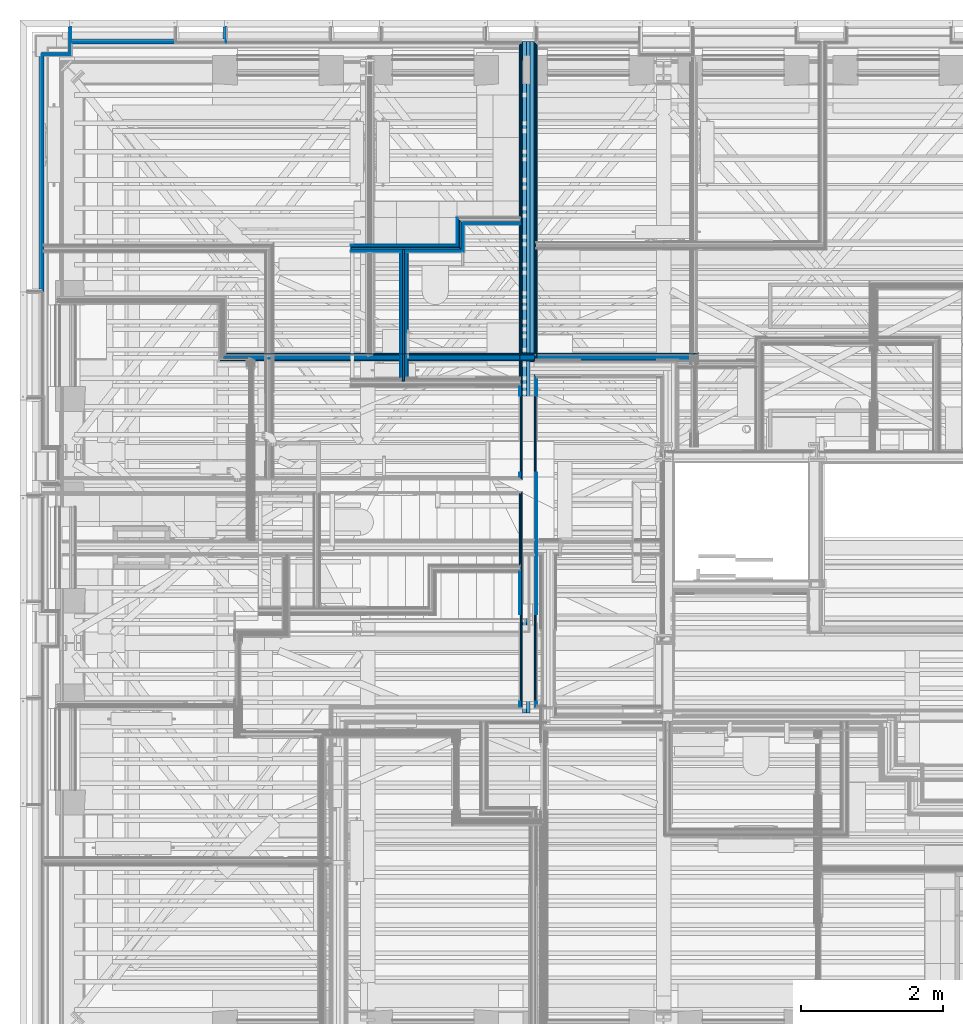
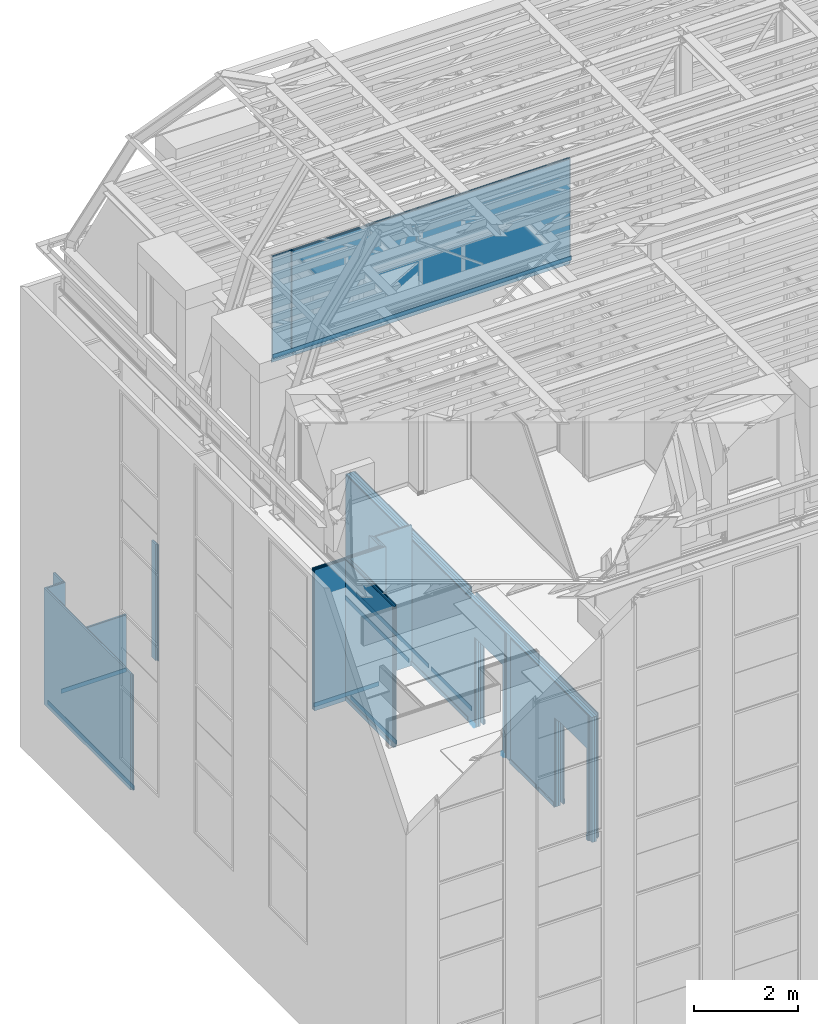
# One storey, part 39 of 183: 62 building element parts, 3 openings, 11 elements without a shape of their own.
"""IFC2X3 building model written with IfcOpenShell, lengths in metres."""

from ifc_helpers import new_model, entity, si_unit, converted_unit, derived_unit, money_unit, direction, frame, frame_2d, origin_with_axes, place, context, subcontext, project, spatial, polyline, rectangle, outline, extrude, material, type_object, element, aggregate, save


model = new_model("IFC2X3")

# Units and contexts
model_context = context("Model", 3, precision=1e-05, world=origin_with_axes(), true_north=direction((0.0, 1.0)))
body_context = subcontext(model_context, "Body", "Model", "MODEL_VIEW", scale=1.0)
ifc_project = project(units=[si_unit("LENGTHUNIT", "METRE"), si_unit("AREAUNIT", "SQUARE_METRE"), si_unit("VOLUMEUNIT", "CUBIC_METRE"), si_unit("ABSORBEDDOSEUNIT", "GRAY"), si_unit("AMOUNTOFSUBSTANCEUNIT", "MOLE"), si_unit("DOSEEQUIVALENTUNIT", "SIEVERT"), si_unit("ELECTRICCAPACITANCEUNIT", "FARAD"), si_unit("ELECTRICCHARGEUNIT", "COULOMB"), si_unit("ELECTRICCONDUCTANCEUNIT", "SIEMENS"), si_unit("ELECTRICCURRENTUNIT", "AMPERE"), si_unit("ELECTRICRESISTANCEUNIT", "OHM"), si_unit("ELECTRICVOLTAGEUNIT", "VOLT"), si_unit("ENERGYUNIT", "JOULE"), si_unit("FORCEUNIT", "NEWTON"), si_unit("FREQUENCYUNIT", "HERTZ"), si_unit("ILLUMINANCEUNIT", "LUX"), si_unit("INDUCTANCEUNIT", "HENRY"), si_unit("LUMINOUSFLUXUNIT", "LUMEN"), si_unit("LUMINOUSINTENSITYUNIT", "CANDELA"), si_unit("MAGNETICFLUXDENSITYUNIT", "TESLA"), si_unit("MAGNETICFLUXUNIT", "WEBER"), si_unit("MASSUNIT", "GRAM"), converted_unit("PLANEANGLEUNIT", "degree", entity("IfcReal", 0.0174532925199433), si_unit("PLANEANGLEUNIT", "RADIAN"), dimensions=[0, 0, 0, 0, 0, 0, 0]), si_unit("POWERUNIT", "WATT"), si_unit("PRESSUREUNIT", "PASCAL"), si_unit("RADIOACTIVITYUNIT", "BECQUEREL"), si_unit("SOLIDANGLEUNIT", "STERADIAN"), si_unit("THERMODYNAMICTEMPERATUREUNIT", "KELVIN"), si_unit("TIMEUNIT", "SECOND"), derived_unit("ACCELERATIONUNIT", [(si_unit("LENGTHUNIT", "METRE"), 1), (si_unit("TIMEUNIT", "SECOND"), -2)]), derived_unit("ANGULARVELOCITYUNIT", [(converted_unit("PLANEANGLEUNIT", "degree", entity("IfcReal", 0.0174532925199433), si_unit("PLANEANGLEUNIT", "RADIAN"), dimensions=[0, 0, 0, 0, 0, 0, 0]), 1), (si_unit("TIMEUNIT", "SECOND"), -1)]), derived_unit("CURVATUREUNIT", [(converted_unit("PLANEANGLEUNIT", "degree", entity("IfcReal", 0.0174532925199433), si_unit("PLANEANGLEUNIT", "RADIAN"), dimensions=[0, 0, 0, 0, 0, 0, 0]), 1), (si_unit("LENGTHUNIT", "METRE"), -1)]), derived_unit("DYNAMICVISCOSITYUNIT", [(si_unit("PRESSUREUNIT", "PASCAL"), 1), (si_unit("TIMEUNIT", "SECOND"), 1)]), derived_unit("HEATFLUXDENSITYUNIT", [(si_unit("POWERUNIT", "WATT"), 1), (si_unit("LENGTHUNIT", "METRE"), -2)]), derived_unit("HEATINGVALUEUNIT", [(si_unit("ENERGYUNIT", "JOULE"), 1), (si_unit("MASSUNIT", "GRAM"), -1)]), derived_unit("INTEGERCOUNTRATEUNIT", [(si_unit("TIMEUNIT", "SECOND"), -1)]), derived_unit("IONCONCENTRATIONUNIT", [(si_unit("MASSUNIT", "GRAM"), 1), (si_unit("VOLUMEUNIT", "CUBIC_METRE"), -1)]), derived_unit("ISOTHERMALMOISTURECAPACITYUNIT", [(si_unit("VOLUMEUNIT", "CUBIC_METRE"), 1), (si_unit("MASSUNIT", "GRAM"), -1)]), derived_unit("KINEMATICVISCOSITYUNIT", [(si_unit("AREAUNIT", "SQUARE_METRE"), 1), (si_unit("TIMEUNIT", "SECOND"), -1)]), derived_unit("LINEARFORCEUNIT", [(si_unit("FORCEUNIT", "NEWTON"), 1), (si_unit("LENGTHUNIT", "METRE"), -1)]), derived_unit("LINEARMOMENTUNIT", [(si_unit("FORCEUNIT", "NEWTON"), 1), (si_unit("LENGTHUNIT", "METRE"), -1)]), derived_unit("LINEARSTIFFNESSUNIT", [(si_unit("FORCEUNIT", "NEWTON"), 1), (si_unit("LENGTHUNIT", "METRE"), -1)]), derived_unit("LINEARVELOCITYUNIT", [(si_unit("LENGTHUNIT", "METRE"), 1), (si_unit("TIMEUNIT", "SECOND"), -1)]), derived_unit("LUMINOUSINTENSITYDISTRIBUTIONUNIT", [(si_unit("LUMINOUSINTENSITYUNIT", "CANDELA"), 1), (si_unit("LUMINOUSFLUXUNIT", "LUMEN"), -1)]), derived_unit("MASSDENSITYUNIT", [(si_unit("MASSUNIT", "GRAM"), 1), (si_unit("VOLUMEUNIT", "CUBIC_METRE"), -1)]), derived_unit("MASSFLOWRATEUNIT", [(si_unit("MASSUNIT", "GRAM"), 1), (si_unit("TIMEUNIT", "SECOND"), -1)]), derived_unit("MASSPERLENGTHUNIT", [(si_unit("MASSUNIT", "GRAM"), 1), (si_unit("LENGTHUNIT", "METRE"), -1)]), derived_unit("MODULUSOFELASTICITYUNIT", [(si_unit("FORCEUNIT", "NEWTON"), 1), (si_unit("AREAUNIT", "SQUARE_METRE"), -1)]), derived_unit("MODULUSOFLINEARSUBGRADEREACTIONUNIT", [(si_unit("FORCEUNIT", "NEWTON"), 1), (si_unit("LENGTHUNIT", "METRE"), -2)]), derived_unit("MODULUSOFROTATIONALSUBGRADEREACTIONUNIT", [(si_unit("FORCEUNIT", "NEWTON"), 1), (si_unit("LENGTHUNIT", "METRE"), 1)]), derived_unit("MODULUSOFSUBGRADEREACTIONUNIT", [(si_unit("FORCEUNIT", "NEWTON"), 1), (si_unit("VOLUMEUNIT", "CUBIC_METRE"), -1)]), derived_unit("MOISTUREDIFFUSIVITYUNIT", [(si_unit("VOLUMEUNIT", "CUBIC_METRE"), 1), (si_unit("TIMEUNIT", "SECOND"), -1)]), derived_unit("MOLECULARWEIGHTUNIT", [(si_unit("MASSUNIT", "GRAM"), 1), (si_unit("AMOUNTOFSUBSTANCEUNIT", "MOLE"), -1)]), derived_unit("PLANARFORCEUNIT", [(si_unit("FORCEUNIT", "NEWTON"), 1), (si_unit("LENGTHUNIT", "METRE"), -2)]), derived_unit("ROTATIONALFREQUENCYUNIT", [(si_unit("TIMEUNIT", "SECOND"), -1)]), derived_unit("ROTATIONALMASSUNIT", [(si_unit("MASSUNIT", "GRAM"), 1), (si_unit("LENGTHUNIT", "METRE"), 2)]), derived_unit("ROTATIONALSTIFFNESSUNIT", [(si_unit("FORCEUNIT", "NEWTON"), 1), (si_unit("LENGTHUNIT", "METRE"), 1), (converted_unit("PLANEANGLEUNIT", "degree", entity("IfcReal", 0.0174532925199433), si_unit("PLANEANGLEUNIT", "RADIAN"), dimensions=[0, 0, 0, 0, 0, 0, 0]), -1)]), derived_unit("SECTIONAREAINTEGRALUNIT", [(si_unit("LENGTHUNIT", "METRE"), 5)]), derived_unit("SECTIONMODULUSUNIT", [(si_unit("LENGTHUNIT", "METRE"), 3)]), derived_unit("SHEARMODULUSUNIT", [(si_unit("FORCEUNIT", "NEWTON"), 1), (si_unit("AREAUNIT", "SQUARE_METRE"), -1)]), derived_unit("SOUNDPOWERUNIT", [(si_unit("ENERGYUNIT", "JOULE"), 1), (si_unit("TIMEUNIT", "SECOND"), -1)]), derived_unit("SPECIFICHEATCAPACITYUNIT", [(si_unit("FORCEUNIT", "NEWTON"), 1), (si_unit("MASSUNIT", "GRAM"), -1), (si_unit("THERMODYNAMICTEMPERATUREUNIT", "KELVIN"), -1)]), derived_unit("TEMPERATUREGRADIENTUNIT", [(si_unit("THERMODYNAMICTEMPERATUREUNIT", "KELVIN"), 1), (si_unit("LENGTHUNIT", "METRE"), -1)]), derived_unit("THERMALADMITTANCEUNIT", [(si_unit("POWERUNIT", "WATT"), 1), (si_unit("AREAUNIT", "SQUARE_METRE"), -1), (si_unit("THERMODYNAMICTEMPERATUREUNIT", "KELVIN"), -1)]), derived_unit("THERMALCONDUCTANCEUNIT", [(si_unit("POWERUNIT", "WATT"), 1), (si_unit("LENGTHUNIT", "METRE"), -1), (si_unit("THERMODYNAMICTEMPERATUREUNIT", "KELVIN"), -1)]), derived_unit("THERMALEXPANSIONCOEFFICIENTUNIT", [(si_unit("THERMODYNAMICTEMPERATUREUNIT", "KELVIN"), -1)]), derived_unit("THERMALRESISTANCEUNIT", [(si_unit("AREAUNIT", "SQUARE_METRE"), 1), (si_unit("POWERUNIT", "WATT"), -1)]), derived_unit("THERMALTRANSMITTANCEUNIT", [(si_unit("POWERUNIT", "WATT"), 1), (si_unit("AREAUNIT", "SQUARE_METRE"), -1), (si_unit("THERMODYNAMICTEMPERATUREUNIT", "KELVIN"), -1)]), derived_unit("TORQUEUNIT", [(si_unit("FORCEUNIT", "NEWTON"), 1), (si_unit("LENGTHUNIT", "METRE"), 1)]), derived_unit("VAPORPERMEABILITYUNIT", [(si_unit("MASSUNIT", "GRAM"), 1), (si_unit("TIMEUNIT", "SECOND"), -1)]), derived_unit("VOLUMETRICFLOWRATEUNIT", [(si_unit("VOLUMEUNIT", "CUBIC_METRE"), 1), (si_unit("TIMEUNIT", "SECOND"), -1)]), derived_unit("WARPINGCONSTANTUNIT", [(si_unit("LENGTHUNIT", "METRE"), 6)]), derived_unit("WARPINGMOMENTUNIT", [(si_unit("FORCEUNIT", "NEWTON"), 1), (si_unit("LENGTHUNIT", "METRE"), 2)]), money_unit("GBP")], contexts=[model_context])

# Site, building, storey
site_placement = place(None, origin_with_axes())
site = spatial("IfcSite", under=ifc_project, at=site_placement, Name="Site", CompositionType="ELEMENT")
building_placement = place(site_placement, origin_with_axes())
building = spatial("IfcBuilding", under=site, at=building_placement, Name="Building01", CompositionType="ELEMENT")
storey_placement = place(building_placement, frame((0.0, 0.0, 5.15), z_axis=(0.0, 0.0, 1.0), x_axis=(1.0, 0.0, 0.0)))
storey = spatial("IfcBuildingStorey", under=building, at=storey_placement, Name="1F", CompositionType="ELEMENT", Elevation=5.15)

# Wall, openings, building element parts
wall_type_1 = type_object("IfcWallType", Name="SHE_A-Walls_Type01c_Partywall_225mm_twin_tall", PredefinedType="NOTDEFINED")
wall_1_placement = place(storey_placement, frame((7.201669, 5.117, 0.0), z_axis=(0.0, 0.0, 1.0), x_axis=(0.0, 1.0, 0.0)))
wall_1 = element("IfcWall", 1, at=wall_1_placement, inside=storey, type_object=wall_type_1, Name="1C", ObjectType="SHE_A-Walls_Type01c_Partywall_225mm_twin_tall")
opening_1_placement = place(wall_1_placement, frame((0.307475, -0.103, -0.03), z_axis=(0.0, 0.0, 1.0), x_axis=(1.0, 0.0, 0.0)))
element("IfcOpeningElement", 2, at=opening_1_placement, cuts=wall_1, Name="Opening", ObjectType="Opening", context=body_context, shape_type="SweptSolid", body=[
    extrude(rectangle(XDim=1.084, YDim=2.142, at=frame_2d((-0.542, 1.071), x_axis=(-1.0, 0.0))), frame((0.0, 0.0, 0.0), z_axis=(0.0, 1.0, 0.0), x_axis=(-1.0, 0.0, 0.0)), (0.0, 0.0, 1.0), 0.255),
])
opening_2_placement = place(wall_1_placement, frame((0.157475, -0.103, 0.0), z_axis=(0.0, 0.0, 1.0), x_axis=(1.0, 0.0, 0.0)))
element("IfcOpeningElement", 3, at=opening_2_placement, cuts=wall_1, Name="Opening", ObjectType="Opening", context=body_context, shape_type="SweptSolid", body=[
    extrude(rectangle(XDim=2.142, YDim=1.084, at=frame_2d((-0.542, 1.071), x_axis=(0.0, -1.0))), frame((0.0, 0.0, 0.0), z_axis=(0.0, 1.0, 0.0), x_axis=(-1.0, 0.0, 0.0)), (0.0, 0.0, 1.0), 0.255),
])
opening_3_placement = place(wall_1_placement, frame((3.391704, -0.103, 0.0), z_axis=(0.0, 0.0, 1.0), x_axis=(1.0, 0.0, 0.0)))
element("IfcOpeningElement", 4, at=opening_3_placement, cuts=wall_1, Name="Opening", ObjectType="Opening", context=body_context, shape_type="SweptSolid", body=[
    extrude(rectangle(XDim=2.142, YDim=1.084, at=frame_2d((-0.542, 1.071), x_axis=(0.0, -1.0))), frame((0.0, 0.0, 0.0), z_axis=(0.0, 1.0, 0.0), x_axis=(-1.0, 0.0, 0.0)), (0.0, 0.0, 1.0), 0.255),
])
ifc_material_1 = material(Name="A_BSUK_Walls_Timber")
placement_1 = place(wall_1_placement, origin_with_axes())
building_element_part_1 = element("IfcBuildingElementPart", 5, at=placement_1, material=ifc_material_1, Name="1", context=body_context, shape_type="SweptSolid", body=[
    extrude(rectangle(XDim=4.657704, YDim=0.015, at=frame_2d((2.416852, -0.0955), x_axis=(-1.0, 0.0))), frame((0.0, 0.0, 0.015), z_axis=(0.0, 0.0, 1.0), x_axis=(1.0, 0.0, 0.0)), (0.0, 0.0, 1.0), 0.1),
])
building_element_part_2 = element("IfcBuildingElementPart", 6, at=placement_1, material=ifc_material_1, Name="2", context=body_context, shape_type="SweptSolid", body=[
    extrude(rectangle(XDim=1.56542, YDim=0.015, at=frame_2d((5.768414, -0.0955), x_axis=(-1.0, 0.0))), frame((0.0, 0.0, 0.015), z_axis=(0.0, 0.0, 1.0), x_axis=(1.0, 0.0, 0.0)), (0.0, 0.0, 1.0), 0.1),
])
building_element_part_3 = element("IfcBuildingElementPart", 7, at=placement_1, material=ifc_material_1, Name="3", context=body_context, shape_type="SweptSolid", body=[
    extrude(rectangle(XDim=2.803876, YDim=0.015, at=frame_2d((8.048062, -0.0955), x_axis=(-1.0, 0.0))), frame((0.0, 0.0, 0.015), z_axis=(0.0, 0.0, 1.0), x_axis=(1.0, 0.0, 0.0)), (0.0, 0.0, 1.0), 0.1),
])
ifc_material_2 = material(Name="A_BSUK_WallInternal_Finishes_Plasterboard")
building_element_part_4 = element("IfcBuildingElementPart", 8, at=placement_1, material=ifc_material_2, Name="4", context=body_context, shape_type="SweptSolid", body=[
    extrude(rectangle(XDim=4.672704, YDim=0.015, at=frame_2d((2.424352, -0.0805), x_axis=(-1.0, 0.0))), origin_with_axes(), (0.0, 0.0, 1.0), 2.95),
])
building_element_part_5 = element("IfcBuildingElementPart", 9, at=placement_1, material=ifc_material_2, Name="5", context=body_context, shape_type="SweptSolid", body=[
    extrude(rectangle(XDim=4.494296, YDim=0.015, at=frame_2d((7.217852, -0.0805), x_axis=(-1.0, 0.0))), origin_with_axes(), (0.0, 0.0, 1.0), 2.95),
])
building_element_part_6 = element("IfcBuildingElementPart", 10, at=placement_1, material=ifc_material_2, Name="6", context=body_context, shape_type="SweptSolid", body=[
    extrude(rectangle(XDim=4.702704, YDim=0.015, at=frame_2d((2.424352, -0.0655), x_axis=(-1.0, 0.0))), origin_with_axes(), (0.0, 0.0, 1.0), 2.95),
])
building_element_part_7 = element("IfcBuildingElementPart", 11, at=placement_1, material=ifc_material_2, Name="7", context=body_context, shape_type="SweptSolid", body=[
    extrude(rectangle(XDim=4.521296, YDim=0.015, at=frame_2d((7.216352, -0.0655), x_axis=(-1.0, 0.0))), origin_with_axes(), (0.0, 0.0, 1.0), 2.95),
])
ifc_material_3 = material(Name="Air Cavity")
building_element_part_8 = element("IfcBuildingElementPart", 12, at=placement_1, material=ifc_material_3, Name="8", context=body_context, shape_type="SweptSolid", body=[
    extrude(rectangle(XDim=4.521296, YDim=0.058, at=frame_2d((7.216352, -0.029), x_axis=(-1.0, 0.0))), origin_with_axes(), (0.0, 0.0, 1.0), 2.95),
])
ifc_material_4 = material(Name="A_BSUK_Insulation")
building_element_part_9 = element("IfcBuildingElementPart", 13, at=placement_1, material=ifc_material_4, Name="9", context=body_context, shape_type="SweptSolid", body=[
    extrude(rectangle(XDim=9.477, YDim=0.05, at=frame_2d((4.7385, 0.025), x_axis=(-1.0, 0.0))), origin_with_axes(), (0.0, 0.0, 1.0), 2.95),
])
building_element_part_10 = element("IfcBuildingElementPart", 14, at=placement_1, material=ifc_material_3, Name="10", context=body_context, shape_type="SweptSolid", body=[
    extrude(rectangle(XDim=9.477, YDim=0.057, at=frame_2d((4.7385, 0.0785), x_axis=(-1.0, 0.0))), origin_with_axes(), (0.0, 0.0, 1.0), 2.95),
])
building_element_part_11 = element("IfcBuildingElementPart", 15, at=placement_1, material=ifc_material_2, Name="11", context=body_context, shape_type="SweptSolid", body=[
    extrude(outline(polyline([(3.10867, 0.122), (0.073, 0.122), (0.073, 0.107), (3.12367, 0.107), (3.10867, 0.122)])), origin_with_axes(), (0.0, 0.0, 1.0), 2.95),
])
building_element_part_12 = element("IfcBuildingElementPart", 16, at=placement_1, material=ifc_material_2, Name="12", context=body_context, shape_type="SweptSolid", body=[
    extrude(outline(polyline([(9.477, 0.122), (3.30367, 0.122), (3.28867, 0.107), (9.477, 0.107), (9.477, 0.122)])), origin_with_axes(), (0.0, 0.0, 1.0), 2.95),
])
building_element_part_13 = element("IfcBuildingElementPart", 17, at=placement_1, material=ifc_material_2, Name="13", context=body_context, shape_type="SweptSolid", body=[
    extrude(rectangle(XDim=3.00567, YDim=0.015, at=frame_2d((1.590835, 0.1295), x_axis=(-1.0, 0.0))), origin_with_axes(), (0.0, 0.0, 1.0), 2.95),
])
building_element_part_14 = element("IfcBuildingElementPart", 18, at=placement_1, material=ifc_material_2, Name="14", context=body_context, shape_type="SweptSolid", body=[
    extrude(outline(polyline([(9.465, 0.137), (3.31867, 0.137), (3.30367, 0.122), (9.465, 0.122), (9.465, 0.137)])), origin_with_axes(), (0.0, 0.0, 1.0), 2.95),
])
building_element_part_15 = element("IfcBuildingElementPart", 19, at=placement_1, material=ifc_material_1, Name="15", context=body_context, shape_type="SweptSolid", body=[
    extrude(rectangle(XDim=1.906475, YDim=0.015, at=frame_2d((1.041238, 0.1445), x_axis=(-1.0, 0.0))), frame((0.0, 0.0, 0.015), z_axis=(0.0, 0.0, 1.0), x_axis=(1.0, 0.0, 0.0)), (0.0, 0.0, 1.0), 0.1),
])
building_element_part_16 = element("IfcBuildingElementPart", 20, at=placement_1, material=ifc_material_1, Name="16", context=body_context, shape_type="SweptSolid", body=[
    extrude(rectangle(XDim=1.27, YDim=0.015, at=frame_2d((3.96867, 0.1445), x_axis=(-1.0, 0.0))), frame((0.0, 0.0, 0.015), z_axis=(0.0, 0.0, 1.0), x_axis=(1.0, 0.0, 0.0)), (0.0, 0.0, 1.0), 0.1),
])
building_element_part_17 = element("IfcBuildingElementPart", 21, at=placement_1, material=ifc_material_1, Name="17", context=body_context, shape_type="SweptSolid", body=[
    extrude(rectangle(XDim=2.45633, YDim=0.015, at=frame_2d((8.221835, 0.1445), x_axis=(-1.0, 0.0))), frame((0.0, 0.0, 0.015), z_axis=(0.0, 0.0, 1.0), x_axis=(1.0, 0.0, 0.0)), (0.0, 0.0, 1.0), 0.1),
])
building_element_part_18 = element("IfcBuildingElementPart", 22, at=placement_1, material=ifc_material_1, Name="18", context=body_context, shape_type="SweptSolid", body=[
    extrude(rectangle(XDim=2.17, YDim=0.015, at=frame_2d((5.81367, 0.1445), x_axis=(-1.0, 0.0))), frame((0.0, 0.0, 0.015), z_axis=(0.0, 0.0, 1.0), x_axis=(1.0, 0.0, 0.0)), (0.0, 0.0, 1.0), 0.1),
])
building_element_part_19 = element("IfcBuildingElementPart", 23, at=placement_1, material=ifc_material_1, Name="19", context=body_context, shape_type="SweptSolid", body=[
    extrude(rectangle(XDim=1.004195, YDim=0.015, at=frame_2d((2.591572, 0.1445), x_axis=(-1.0, 0.0))), frame((0.0, 0.0, 0.015), z_axis=(0.0, 0.0, 1.0), x_axis=(1.0, 0.0, 0.0)), (0.0, 0.0, 1.0), 0.1),
])
aggregate(wall_1, [building_element_part_1, building_element_part_2, building_element_part_3, building_element_part_4, building_element_part_5, building_element_part_6, building_element_part_7, building_element_part_8, building_element_part_9, building_element_part_10, building_element_part_11, building_element_part_12, building_element_part_13, building_element_part_14, building_element_part_15, building_element_part_16, building_element_part_17, building_element_part_18, building_element_part_19])

# Wall, building element parts
wall_type_2 = type_object("IfcWallType", Name="SHE_A-Walls_Type05a_Partition_95mm_tall", PredefinedType="NOTDEFINED")
wall_2_placement = place(storey_placement, frame((6.229669, 11.66567, 0.0), z_axis=(0.0, 0.0, 1.0), x_axis=(0.0, 1.0, 0.0)))
wall_2 = element("IfcWall", 24, at=wall_2_placement, inside=storey, type_object=wall_type_2, Name="5A", ObjectType="SHE_A-Walls_Type05a_Partition_95mm_tall")
placement_2 = place(wall_2_placement, origin_with_axes())
building_element_part_20 = element("IfcBuildingElementPart", 25, at=placement_2, material=ifc_material_2, Name="2", context=body_context, shape_type="SweptSolid", body=[
    extrude(outline(polyline([(0.35, -0.023), (-0.023, -0.023), (-0.035, -0.035), (0.35, -0.035), (0.35, -0.023)])), origin_with_axes(), (0.0, 0.0, 1.0), 3.32),
])
building_element_part_21 = element("IfcBuildingElementPart", 26, at=placement_2, material=ifc_material_3, Name="3", context=body_context, shape_type="SweptSolid", body=[
    extrude(outline(polyline([(0.35, 0.0), (0.0, 0.0), (-0.023, -0.023), (0.35, -0.023), (0.35, 0.0)])), origin_with_axes(), (0.0, 0.0, 1.0), 3.32),
])
building_element_part_22 = element("IfcBuildingElementPart", 27, at=placement_2, material=ifc_material_4, Name="4", context=body_context, shape_type="SweptSolid", body=[
    extrude(outline(polyline([(0.41, 0.025), (0.025, 0.025), (0.0, 0.0), (0.385, 0.0), (0.41, 0.025)])), origin_with_axes(), (0.0, 0.0, 1.0), 3.32),
])
building_element_part_23 = element("IfcBuildingElementPart", 28, at=placement_2, material=ifc_material_3, Name="5", context=body_context, shape_type="SweptSolid", body=[
    extrude(outline(polyline([(0.433, 0.048), (0.048, 0.048), (0.025, 0.025), (0.41, 0.025), (0.433, 0.048)])), origin_with_axes(), (0.0, 0.0, 1.0), 3.32),
])
building_element_part_24 = element("IfcBuildingElementPart", 29, at=placement_2, material=ifc_material_2, Name="6", context=body_context, shape_type="SweptSolid", body=[
    extrude(outline(polyline([(0.445, 0.06), (0.06, 0.06), (0.048, 0.048), (0.433, 0.048), (0.445, 0.06)])), origin_with_axes(), (0.0, 0.0, 1.0), 3.32),
])
aggregate(wall_2, [building_element_part_20, building_element_part_21, building_element_part_22, building_element_part_23, building_element_part_24])

wall_3_placement = place(storey_placement, frame((6.229669, 12.05067, 0.0), z_axis=(0.0, 0.0, 1.0), x_axis=(1.0, 0.0, 0.0)))
wall_3 = element("IfcWall", 30, at=wall_3_placement, inside=storey, type_object=wall_type_2, Name="5A", ObjectType="SHE_A-Walls_Type05a_Partition_95mm_tall")
placement_3 = place(wall_3_placement, origin_with_axes())
building_element_part_25 = element("IfcBuildingElementPart", 31, at=placement_3, material=ifc_material_2, Name="2", context=body_context, shape_type="SweptSolid", body=[
    extrude(rectangle(XDim=0.812, YDim=0.012, at=frame_2d((0.429, -0.029), x_axis=(-1.0, 0.0))), origin_with_axes(), (0.0, 0.0, 1.0), 3.32),
])
building_element_part_26 = element("IfcBuildingElementPart", 32, at=placement_3, material=ifc_material_3, Name="3", context=body_context, shape_type="SweptSolid", body=[
    extrude(rectangle(XDim=0.812, YDim=0.023, at=frame_2d((0.429, -0.0115), x_axis=(-1.0, 0.0))), origin_with_axes(), (0.0, 0.0, 1.0), 3.32),
])
aggregate(wall_3, [building_element_part_25, building_element_part_26])

wall_4_placement = place(storey_placement, frame((4.669669, 11.66567, 0.0), z_axis=(0.0, 0.0, 1.0), x_axis=(1.0, 0.0, 0.0)))
wall_4 = element("IfcWall", 33, at=wall_4_placement, inside=storey, type_object=wall_type_2, Name="5A", ObjectType="SHE_A-Walls_Type05a_Partition_95mm_tall")
placement_4 = place(wall_4_placement, origin_with_axes())
building_element_part_27 = element("IfcBuildingElementPart", 34, at=placement_4, material=ifc_material_2, Name="3", context=body_context, shape_type="SweptSolid", body=[
    extrude(rectangle(XDim=0.712, YDim=0.012, at=frame_2d((0.356, -0.029), x_axis=(-1.0, 0.0))), origin_with_axes(), (0.0, 0.0, 1.0), 3.32),
])
building_element_part_28 = element("IfcBuildingElementPart", 35, at=placement_4, material=ifc_material_2, Name="4", context=body_context, shape_type="SweptSolid", body=[
    extrude(outline(polyline([(1.583, -0.023), (0.783, -0.023), (0.783, -0.035), (1.595, -0.035), (1.583, -0.023)])), origin_with_axes(), (0.0, 0.0, 1.0), 3.32),
])
building_element_part_29 = element("IfcBuildingElementPart", 36, at=placement_4, material=ifc_material_3, Name="5", context=body_context, shape_type="SweptSolid", body=[
    extrude(outline(polyline([(1.56, 0.0), (0.783, 0.0), (0.783, -0.023), (1.583, -0.023), (1.56, 0.0)])), origin_with_axes(), (0.0, 0.0, 1.0), 3.32),
])
building_element_part_30 = element("IfcBuildingElementPart", 37, at=placement_4, material=ifc_material_4, Name="6", context=body_context, shape_type="SweptSolid", body=[
    extrude(outline(polyline([(1.535, 0.025), (0.0, 0.025), (0.0, 0.0), (1.56, 0.0), (1.535, 0.025)])), origin_with_axes(), (0.0, 0.0, 1.0), 3.32),
])
building_element_part_31 = element("IfcBuildingElementPart", 38, at=placement_4, material=ifc_material_3, Name="7", context=body_context, shape_type="SweptSolid", body=[
    extrude(outline(polyline([(1.512, 0.048), (0.0, 0.048), (0.0, 0.025), (1.535, 0.025), (1.512, 0.048)])), origin_with_axes(), (0.0, 0.0, 1.0), 3.32),
])
building_element_part_32 = element("IfcBuildingElementPart", 39, at=placement_4, material=ifc_material_2, Name="8", context=body_context, shape_type="SweptSolid", body=[
    extrude(outline(polyline([(1.5, 0.06), (0.0, 0.06), (0.0, 0.048), (1.512, 0.048), (1.5, 0.06)])), origin_with_axes(), (0.0, 0.0, 1.0), 3.32),
])
building_element_part_33 = element("IfcBuildingElementPart", 40, at=placement_4, material=ifc_material_1, Name="9", context=body_context, shape_type="SweptSolid", body=[
    extrude(outline(polyline([(1.485, 0.075), (0.05, 0.075), (0.05, 0.06), (1.5, 0.06), (1.485, 0.075)])), frame((0.0, 0.0, 0.015), z_axis=(0.0, 0.0, 1.0), x_axis=(1.0, 0.0, 0.0)), (0.0, 0.0, 1.0), 0.1),
])
aggregate(wall_4, [building_element_part_27, building_element_part_28, building_element_part_29, building_element_part_30, building_element_part_31, building_element_part_32, building_element_part_33])

wall_5_placement = place(storey_placement, frame((5.429669, 9.79567, 0.0), z_axis=(0.0, 0.0, 1.0), x_axis=(0.0, 1.0, 0.0)))
wall_5 = element("IfcWall", 41, at=wall_5_placement, inside=storey, type_object=wall_type_2, Name="5A", ObjectType="SHE_A-Walls_Type05a_Partition_95mm_tall")
placement_5 = place(wall_5_placement, origin_with_axes())
building_element_part_34 = element("IfcBuildingElementPart", 42, at=placement_5, material=ifc_material_1, Name="1", context=body_context, shape_type="SweptSolid", body=[
    extrude(rectangle(XDim=1.77, YDim=0.015, at=frame_2d((0.935, -0.0425), x_axis=(-1.0, 0.0))), frame((0.0, 0.0, 0.015), z_axis=(0.0, 0.0, 1.0), x_axis=(1.0, 0.0, 0.0)), (0.0, 0.0, 1.0), 0.1),
])
building_element_part_35 = element("IfcBuildingElementPart", 43, at=placement_5, material=ifc_material_2, Name="2", context=body_context, shape_type="SweptSolid", body=[
    extrude(rectangle(XDim=1.8, YDim=0.012, at=frame_2d((0.935, -0.029), x_axis=(-1.0, 0.0))), origin_with_axes(), (0.0, 0.0, 1.0), 3.32),
])
building_element_part_36 = element("IfcBuildingElementPart", 44, at=placement_5, material=ifc_material_3, Name="3", context=body_context, shape_type="SweptSolid", body=[
    extrude(rectangle(XDim=1.8, YDim=0.023, at=frame_2d((0.935, -0.0115), x_axis=(-1.0, 0.0))), origin_with_axes(), (0.0, 0.0, 1.0), 3.32),
])
building_element_part_37 = element("IfcBuildingElementPart", 45, at=placement_5, material=ifc_material_4, Name="4", context=body_context, shape_type="SweptSolid", body=[
    extrude(rectangle(XDim=1.87, YDim=0.025, at=frame_2d((0.935, 0.0125), x_axis=(-1.0, 0.0))), origin_with_axes(), (0.0, 0.0, 1.0), 3.32),
])
building_element_part_38 = element("IfcBuildingElementPart", 46, at=placement_5, material=ifc_material_3, Name="5", context=body_context, shape_type="SweptSolid", body=[
    extrude(rectangle(XDim=1.87, YDim=0.023, at=frame_2d((0.935, 0.0365), x_axis=(-1.0, 0.0))), origin_with_axes(), (0.0, 0.0, 1.0), 3.32),
])
building_element_part_39 = element("IfcBuildingElementPart", 47, at=placement_5, material=ifc_material_2, Name="6", context=body_context, shape_type="SweptSolid", body=[
    extrude(rectangle(XDim=1.8, YDim=0.012, at=frame_2d((0.935, 0.054), x_axis=(-1.0, 0.0))), origin_with_axes(), (0.0, 0.0, 1.0), 3.32),
])
building_element_part_40 = element("IfcBuildingElementPart", 48, at=placement_5, material=ifc_material_1, Name="7", context=body_context, shape_type="SweptSolid", body=[
    extrude(rectangle(XDim=1.77, YDim=0.015, at=frame_2d((0.935, 0.0675), x_axis=(-1.0, 0.0))), frame((0.0, 0.0, 0.015), z_axis=(0.0, 0.0, 1.0), x_axis=(1.0, 0.0, 0.0)), (0.0, 0.0, 1.0), 0.1),
])
aggregate(wall_5, [building_element_part_34, building_element_part_35, building_element_part_36, building_element_part_37, building_element_part_38, building_element_part_39, building_element_part_40])

wall_type_3 = type_object("IfcWallType", Name="SHE_A-Walls_Type06d_ExternalWallInsulation_48mm", PredefinedType="NOTDEFINED")
wall_6_placement = place(storey_placement, frame((2.903, 14.63, 0.0), z_axis=(0.0, 0.0, 1.0), x_axis=(0.0, 1.0, 0.0)))
wall_6 = element("IfcWall", 49, at=wall_6_placement, inside=storey, type_object=wall_type_3, Name="6D", ObjectType="SHE_A-Walls_Type06d_ExternalWallInsulation_48mm")
placement_6 = place(wall_6_placement, origin_with_axes())
building_element_part_41 = element("IfcBuildingElementPart", 50, at=placement_6, material=ifc_material_2, Name="2", context=body_context, shape_type="SweptSolid", body=[
    extrude(outline(polyline([(-0.035, 0.001), (-0.048, -0.012), (0.17, -0.012), (0.17, 0.001), (-0.035, 0.001)])), origin_with_axes(), (0.0, 0.0, 1.0), 2.74),
])
building_element_part_42 = element("IfcBuildingElementPart", 51, at=placement_6, material=ifc_material_4, Name="3", context=body_context, shape_type="SweptSolid", body=[
    extrude(rectangle(XDim=0.036, YDim=0.17, at=frame_2d((0.085, 0.018), x_axis=(0.0, -1.0))), origin_with_axes(), (0.0, 0.0, 1.0), 2.74),
])
aggregate(wall_6, [building_element_part_41, building_element_part_42])

wall_7_placement = place(storey_placement, frame((2.195, 14.594, 0.0), z_axis=(0.0, 0.0, 1.0), x_axis=(-1.0, 0.0, 0.0)))
wall_7 = element("IfcWall", 52, at=wall_7_placement, inside=storey, type_object=wall_type_3, Name="6D", ObjectType="SHE_A-Walls_Type06d_ExternalWallInsulation_48mm")
placement_7 = place(wall_7_placement, origin_with_axes())
building_element_part_43 = element("IfcBuildingElementPart", 53, at=placement_7, material=ifc_material_4, Name="1", context=body_context, shape_type="SweptSolid", body=[
    extrude(rectangle(XDim=1.47, YDim=0.036, at=frame_2d((0.735, -0.018), x_axis=(-1.0, 0.0))), origin_with_axes(), (0.0, 0.0, 1.0), 1.35),
])
building_element_part_44 = element("IfcBuildingElementPart", 54, at=placement_7, material=ifc_material_2, Name="2", context=body_context, shape_type="SweptSolid", body=[
    extrude(rectangle(XDim=1.47, YDim=0.013, at=frame_2d((0.735, 0.0055), x_axis=(-1.0, 0.0))), origin_with_axes(), (0.0, 0.0, 1.0), 1.35),
])
building_element_part_45 = element("IfcBuildingElementPart", 55, at=placement_7, material=ifc_material_1, Name="3", context=body_context, shape_type="SweptSolid", body=[
    extrude(rectangle(XDim=1.455, YDim=0.015, at=frame_2d((0.7425, 0.0195), x_axis=(-1.0, 0.0))), frame((0.0, 0.0, 0.015), z_axis=(0.0, 0.0, 1.0), x_axis=(1.0, 0.0, 0.0)), (0.0, 0.0, 1.0), 0.1),
])
aggregate(wall_7, [building_element_part_43, building_element_part_44, building_element_part_45])

wall_8_placement = place(storey_placement, frame((0.677, 14.800002, 0.0), z_axis=(0.0, 0.0, 1.0), x_axis=(0.0, -1.0, 0.0)))
wall_8 = element("IfcWall", 56, at=wall_8_placement, inside=storey, type_object=wall_type_3, Name="6D", ObjectType="SHE_A-Walls_Type06d_ExternalWallInsulation_48mm")
placement_8 = place(wall_8_placement, origin_with_axes())
building_element_part_46 = element("IfcBuildingElementPart", 57, at=placement_8, material=ifc_material_4, Name="1", context=body_context, shape_type="SweptSolid", body=[
    extrude(rectangle(XDim=0.350002, YDim=0.036, at=frame_2d((0.175001, 0.018), x_axis=(-1.0, 0.0))), origin_with_axes(), (0.0, 0.0, 1.0), 2.74),
])
building_element_part_47 = element("IfcBuildingElementPart", 58, at=placement_8, material=ifc_material_2, Name="2", context=body_context, shape_type="SweptSolid", body=[
    extrude(outline(polyline([(0.398002, 0.048), (0.0, 0.048), (0.0, 0.035), (0.385002, 0.035), (0.398002, 0.048)])), origin_with_axes(), (0.0, 0.0, 1.0), 2.74),
])
aggregate(wall_8, [building_element_part_46, building_element_part_47])

wall_9_placement = place(storey_placement, frame((0.713, 14.45, 0.0), z_axis=(0.0, 0.0, 1.0), x_axis=(-1.0, 0.0, 0.0)))
wall_9 = element("IfcWall", 59, at=wall_9_placement, inside=storey, type_object=wall_type_3, Name="6D", ObjectType="SHE_A-Walls_Type06d_ExternalWallInsulation_48mm")
placement_9 = place(wall_9_placement, origin_with_axes())
building_element_part_48 = element("IfcBuildingElementPart", 60, at=placement_9, material=ifc_material_4, Name="1", context=body_context, shape_type="SweptSolid", body=[
    extrude(rectangle(XDim=0.407, YDim=0.036, at=frame_2d((0.2035, 0.018), x_axis=(-1.0, 0.0))), origin_with_axes(), (0.0, 0.0, 1.0), 2.74),
])
building_element_part_49 = element("IfcBuildingElementPart", 61, at=placement_9, material=ifc_material_2, Name="2", context=body_context, shape_type="SweptSolid", body=[
    extrude(outline(polyline([(0.395, 0.048), (-0.012, 0.048), (0.001, 0.035), (0.395, 0.035), (0.395, 0.048)])), origin_with_axes(), (0.0, 0.0, 1.0), 2.74),
])
aggregate(wall_9, [building_element_part_48, building_element_part_49])

wall_10_placement = place(storey_placement, frame((0.27, 14.45, 0.0), z_axis=(0.0, 0.0, 1.0), x_axis=(0.0, -1.0, 0.0)))
wall_10 = element("IfcWall", 62, at=wall_10_placement, inside=storey, type_object=wall_type_3, Name="6D", ObjectType="SHE_A-Walls_Type06d_ExternalWallInsulation_48mm")
placement_10 = place(wall_10_placement, origin_with_axes())
building_element_part_50 = element("IfcBuildingElementPart", 63, at=placement_10, material=ifc_material_4, Name="1", context=body_context, shape_type="SweptSolid", body=[
    extrude(rectangle(XDim=3.347, YDim=0.036, at=frame_2d((1.6735, 0.018), x_axis=(-1.0, 0.0))), origin_with_axes(), (0.0, 0.0, 1.0), 2.74),
])
building_element_part_51 = element("IfcBuildingElementPart", 64, at=placement_10, material=ifc_material_2, Name="2", context=body_context, shape_type="SweptSolid", body=[
    extrude(outline(polyline([(3.395, 0.048), (0.035, 0.048), (0.035, 0.035), (3.382, 0.035), (3.395, 0.048)])), origin_with_axes(), (0.0, 0.0, 1.0), 2.74),
])
building_element_part_52 = element("IfcBuildingElementPart", 65, at=placement_10, material=ifc_material_1, Name="3", context=body_context, shape_type="SweptSolid", body=[
    extrude(rectangle(XDim=3.332, YDim=0.015, at=frame_2d((1.729, 0.0555), x_axis=(-1.0, 0.0))), frame((0.0, 0.0, 0.015), z_axis=(0.0, 0.0, 1.0), x_axis=(1.0, 0.0, 0.0)), (0.0, 0.0, 1.0), 0.1),
])
aggregate(wall_10, [building_element_part_50, building_element_part_51, building_element_part_52])

wall_type_4 = type_object("IfcWallType", Name="SHE_A-Walls_Type05b_Partition_80mm", PredefinedType="NOTDEFINED")
wall_11_placement = place(storey_placement, frame((2.872, 10.126939, 9.78), z_axis=(0.0, 0.0, 1.0), x_axis=(1.0, 0.0, 0.0)))
wall_11 = element("IfcWall", 66, at=wall_11_placement, inside=storey, type_object=wall_type_4, Name="5B", ObjectType="SHE_A-Walls_Type05b_Partition_80mm")
placement_11 = place(wall_11_placement, origin_with_axes())
building_element_part_53 = element("IfcBuildingElementPart", 67, at=placement_11, material=ifc_material_1, Name="1", context=body_context, shape_type="SweptSolid", body=[
    extrude(outline(polyline([(6.608024, -0.027), (-0.052, -0.027), (-0.052, -0.042), (6.593024, -0.042), (6.608024, -0.027)])), frame((0.0, 0.0, 0.015), z_axis=(0.0, 0.0, 1.0), x_axis=(1.0, 0.0, 0.0)), (0.0, 0.0, 1.0), 0.1),
])
building_element_part_54 = element("IfcBuildingElementPart", 68, at=placement_11, material=ifc_material_1, Name="2", context=body_context, shape_type="SweptSolid", body=[
    extrude(outline(polyline([(6.608024, -0.027), (0.428, -0.027), (0.428, -0.042), (6.593024, -0.042), (6.608024, -0.027)])), frame((0.0, 0.0, 0.015), z_axis=(0.0, 0.0, 1.0), x_axis=(1.0, 0.0, 0.0)), (0.0, 0.0, 1.0), 0.1),
])
building_element_part_55 = element("IfcBuildingElementPart", 69, at=placement_11, material=ifc_material_2, Name="4", context=body_context, shape_type="SweptSolid", body=[
    extrude(rectangle(XDim=6.195024, YDim=0.015, at=frame_2d((3.510512, -0.0195), x_axis=(-1.0, 0.0))), origin_with_axes(), (0.0, 0.0, 1.0), 2.468),
])
building_element_part_56 = element("IfcBuildingElementPart", 70, at=placement_11, material=ifc_material_3, Name="5", context=body_context, shape_type="SweptSolid", body=[
    extrude(rectangle(XDim=6.195024, YDim=0.012, at=frame_2d((3.510512, -0.006), x_axis=(-1.0, 0.0))), origin_with_axes(), (0.0, 0.0, 1.0), 2.468),
])
building_element_part_57 = element("IfcBuildingElementPart", 71, at=placement_11, material=ifc_material_4, Name="6", context=body_context, shape_type="SweptSolid", body=[
    extrude(rectangle(XDim=6.636024, YDim=0.025, at=frame_2d((3.318012, 0.0125), x_axis=(-1.0, 0.0))), origin_with_axes(), (0.0, 0.0, 1.0), 2.468),
])
building_element_part_58 = element("IfcBuildingElementPart", 72, at=placement_11, material=ifc_material_3, Name="7", context=body_context, shape_type="SweptSolid", body=[
    extrude(rectangle(XDim=6.636024, YDim=0.013, at=frame_2d((3.318012, 0.0315), x_axis=(-1.0, 0.0))), origin_with_axes(), (0.0, 0.0, 1.0), 2.468),
])
building_element_part_59 = element("IfcBuildingElementPart", 73, at=placement_11, material=ifc_material_2, Name="10", context=body_context, shape_type="SweptSolid", body=[
    extrude(rectangle(XDim=4.5, YDim=0.015, at=frame_2d((4.358024, 0.0455), x_axis=(-1.0, 0.0))), origin_with_axes(), (0.0, 0.0, 1.0), 2.468),
])
building_element_part_60 = element("IfcBuildingElementPart", 74, at=placement_11, material=ifc_material_1, Name="12", context=body_context, shape_type="SweptSolid", body=[
    extrude(outline(polyline([(6.703024, 0.068), (0.043, 0.068), (0.028, 0.053), (6.688024, 0.053), (6.703024, 0.068)])), frame((0.0, 0.0, 0.015), z_axis=(0.0, 0.0, 1.0), x_axis=(1.0, 0.0, 0.0)), (0.0, 0.0, 1.0), 0.1),
])
building_element_part_61 = element("IfcBuildingElementPart", 75, at=placement_11, material=ifc_material_1, Name="13", context=body_context, shape_type="SweptSolid", body=[
    extrude(outline(polyline([(6.703024, 0.068), (0.043, 0.068), (0.028, 0.053), (6.688024, 0.053), (6.703024, 0.068)])), frame((0.0, 0.0, 0.015), z_axis=(0.0, 0.0, 1.0), x_axis=(1.0, 0.0, 0.0)), (0.0, 0.0, 1.0), 0.1),
])
building_element_part_62 = element("IfcBuildingElementPart", 76, at=placement_11, material=ifc_material_1, Name="14", context=body_context, shape_type="SweptSolid", body=[
    extrude(outline(polyline([(6.703024, 0.068), (0.043, 0.068), (0.043, 0.053), (6.688024, 0.053), (6.703024, 0.068)])), frame((0.0, 0.0, 0.015), z_axis=(0.0, 0.0, 1.0), x_axis=(1.0, 0.0, 0.0)), (0.0, 0.0, 1.0), 0.1),
])
aggregate(wall_11, [building_element_part_53, building_element_part_54, building_element_part_55, building_element_part_56, building_element_part_57, building_element_part_58, building_element_part_59, building_element_part_60, building_element_part_61, building_element_part_62])

save(model, "model.ifc")
